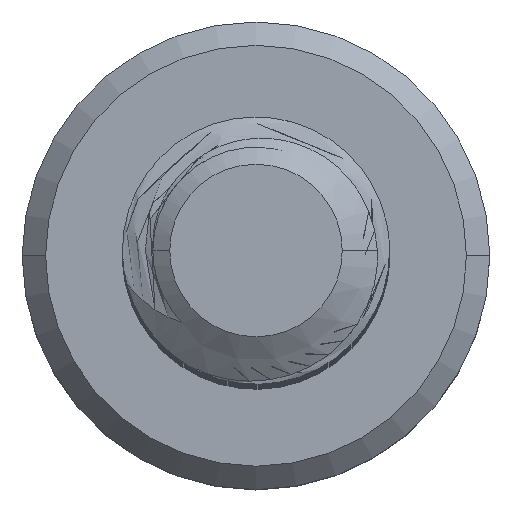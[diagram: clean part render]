
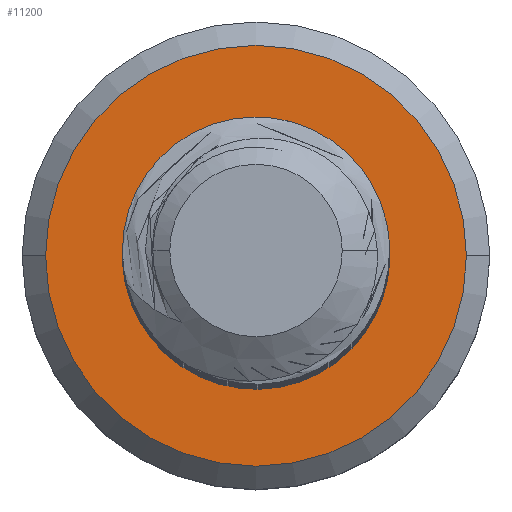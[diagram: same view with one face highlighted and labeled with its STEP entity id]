
A CAD part, top view. The second image highlights one B-rep face of the part: STEP entity #11200.
In plain terms, the highlighted planar face has unit normal (0, 0, 1).
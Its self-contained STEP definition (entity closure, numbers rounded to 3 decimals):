
#76 = CIRCLE ( 'NONE', #15657, 2. ) ;
#80 = CARTESIAN_POINT ( 'NONE',  ( 1.632, -1.052, -45. ) ) ;
#89 = VERTEX_POINT ( 'NONE', #9860 ) ;
#127 = CARTESIAN_POINT ( 'NONE',  ( 0.613, -1.707, -45. ) ) ;
#145 = AXIS2_PLACEMENT_3D ( 'NONE', #4787, #11955, #3460 ) ;
#301 = CIRCLE ( 'NONE', #145, 1.545 ) ;
#1040 = DIRECTION ( 'NONE',  ( -1., 0., 0. ) ) ;
#1287 = CARTESIAN_POINT ( 'NONE',  ( -0.351, 1.743, -45. ) ) ;
#1459 = AXIS2_PLACEMENT_3D ( 'NONE', #14448, #7108, #8368 ) ;
#1683 = EDGE_LOOP ( 'NONE', ( #8965, #11661, #2631, #14417, #15561, #13023 ) ) ;
#2000 = DIRECTION ( 'NONE',  ( 0., 0., -1. ) ) ;
#2385 = CARTESIAN_POINT ( 'NONE',  ( 1.823, -0.755, -45. ) ) ;
#2578 = DIRECTION ( 'NONE',  ( 0., 0., 1. ) ) ;
#2631 = ORIENTED_EDGE ( 'NONE', *, *, #6188, .T. ) ;
#2746 = FACE_BOUND ( 'NONE', #1683, .T. ) ;
#3067 = CARTESIAN_POINT ( 'NONE',  ( 2., 0., -45. ) ) ;
#3070 = CARTESIAN_POINT ( 'NONE',  ( -1.229, -0.986, -45. ) ) ;
#3278 = CARTESIAN_POINT ( 'NONE',  ( 0., 0., -45. ) ) ;
#3460 = DIRECTION ( 'NONE',  ( 1., 0., 0. ) ) ;
#3685 = CARTESIAN_POINT ( 'NONE',  ( 1.582, 1.21, -45. ) ) ;
#3758 = CARTESIAN_POINT ( 'NONE',  ( 0.266, -1.756, -45. ) ) ;
#3759 = EDGE_CURVE ( 'NONE', #4415, #89, #12317, .T. ) ;
#4415 = VERTEX_POINT ( 'NONE', #12277 ) ;
#4729 = CARTESIAN_POINT ( 'NONE',  ( -1.447, 0.676, -45. ) ) ;
#4777 = EDGE_CURVE ( 'NONE', #12446, #6021, #7473, .T. ) ;
#4787 = CARTESIAN_POINT ( 'NONE',  ( 0., 0., -45. ) ) ;
#4822 = CARTESIAN_POINT ( 'NONE',  ( 1.103, -1.512, -45. ) ) ;
#4888 = CARTESIAN_POINT ( 'NONE',  ( 1.69, 1.07, -45. ) ) ;
#5058 = CARTESIAN_POINT ( 'NONE',  ( 0., 0., -45. ) ) ;
#5085 = CARTESIAN_POINT ( 'NONE',  ( -0.259, -1.703, -45. ) ) ;
#5627 = B_SPLINE_CURVE_WITH_KNOTS ( 'NONE', 3,
 ( #9706, #14500, #4729, #7273, #13231, #10753, #5950, #10909, #1287, #9644, #7319, #9756, #14398, #7163, #3685, #4888 ),
 .UNSPECIFIED., .F., .F.,
 ( 4, 2, 2, 2, 2, 2, 2, 4 ),
 ( 0., 0.001, 0.001, 0.002, 0.002, 0.003, 0.004, 0.004 ),
 .UNSPECIFIED. ) ;
#5950 = CARTESIAN_POINT ( 'NONE',  ( -0.823, 1.509, -45. ) ) ;
#5976 = CIRCLE ( 'NONE', #12670, 3.15 ) ;
#6021 = VERTEX_POINT ( 'NONE', #6336 ) ;
#6188 = EDGE_CURVE ( 'NONE', #6021, #10016, #11166, .T. ) ;
#6299 = CARTESIAN_POINT ( 'NONE',  ( -0.425, -1.649, -45. ) ) ;
#6336 = CARTESIAN_POINT ( 'NONE',  ( -1.306, -0.827, -45. ) ) ;
#6722 = FACE_OUTER_BOUND ( 'NONE', #10371, .T. ) ;
#7108 = DIRECTION ( 'NONE',  ( 0., 0., -1. ) ) ;
#7163 = CARTESIAN_POINT ( 'NONE',  ( 1.456, 1.335, -45. ) ) ;
#7200 = CARTESIAN_POINT ( 'NONE',  ( 1.899, -0.597, -45. ) ) ;
#7273 = CARTESIAN_POINT ( 'NONE',  ( -1.298, 0.996, -45. ) ) ;
#7319 = CARTESIAN_POINT ( 'NONE',  ( 0.53, 1.815, -45. ) ) ;
#7356 = CARTESIAN_POINT ( 'NONE',  ( 1.254, -1.414, -45. ) ) ;
#7473 = B_SPLINE_CURVE_WITH_KNOTS ( 'NONE', 3,
 ( #14641, #7200, #2385, #80, #12039, #7356, #4822, #8580, #127, #3758, #13859, #5085, #6299, #7837, #12625, #8675, #3070, #12372 ),
 .UNSPECIFIED., .F., .F.,
 ( 4, 2, 2, 2, 2, 2, 2, 2, 4 ),
 ( 0., 0.001, 0.001, 0.002, 0.002, 0.003, 0.003, 0.004, 0.004 ),
 .UNSPECIFIED. ) ;
#7670 = DIRECTION ( 'NONE',  ( 1., 0., 0. ) ) ;
#7785 = EDGE_CURVE ( 'NONE', #13932, #10827, #5627, .T. ) ;
#7837 = CARTESIAN_POINT ( 'NONE',  ( -0.74, -1.487, -45. ) ) ;
#8196 = EDGE_CURVE ( 'NONE', #11832, #10827, #76, .T. ) ;
#8207 = CIRCLE ( 'NONE', #8791, 2. ) ;
#8257 = CARTESIAN_POINT ( 'NONE',  ( -1.545, 0., -45. ) ) ;
#8290 = CARTESIAN_POINT ( 'NONE',  ( 0., 0., -45. ) ) ;
#8316 = ORIENTED_EDGE ( 'NONE', *, *, #10724, .T. ) ;
#8368 = DIRECTION ( 'NONE',  ( -1., 0., 0. ) ) ;
#8580 = CARTESIAN_POINT ( 'NONE',  ( 0.785, -1.657, -45. ) ) ;
#8675 = CARTESIAN_POINT ( 'NONE',  ( -1.128, -1.13, -45. ) ) ;
#8791 = AXIS2_PLACEMENT_3D ( 'NONE', #12573, #13852, #7670 ) ;
#8965 = ORIENTED_EDGE ( 'NONE', *, *, #12763, .F. ) ;
#9419 = DIRECTION ( 'NONE',  ( 0., 0., 1. ) ) ;
#9644 = CARTESIAN_POINT ( 'NONE',  ( 0.167, 1.849, -45. ) ) ;
#9706 = CARTESIAN_POINT ( 'NONE',  ( -1.509, 0.331, -45. ) ) ;
#9756 = CARTESIAN_POINT ( 'NONE',  ( 1.02, 1.629, -45. ) ) ;
#9860 = CARTESIAN_POINT ( 'NONE',  ( -3.15, 0., -45. ) ) ;
#10016 = VERTEX_POINT ( 'NONE', #8257 ) ;
#10371 = EDGE_LOOP ( 'NONE', ( #8316, #14897 ) ) ;
#10484 = PLANE ( 'NONE',  #1459 ) ;
#10686 = DIRECTION ( 'NONE',  ( 1., 0., 0. ) ) ;
#10724 = EDGE_CURVE ( 'NONE', #89, #4415, #5976, .T. ) ;
#10753 = CARTESIAN_POINT ( 'NONE',  ( -0.959, 1.401, -45. ) ) ;
#10827 = VERTEX_POINT ( 'NONE', #15355 ) ;
#10909 = CARTESIAN_POINT ( 'NONE',  ( -0.514, 1.682, -45. ) ) ;
#11031 = DIRECTION ( 'NONE',  ( -1., 0., 0. ) ) ;
#11163 = AXIS2_PLACEMENT_3D ( 'NONE', #15308, #2000, #14990 ) ;
#11166 = CIRCLE ( 'NONE', #11163, 1.545 ) ;
#11187 = EDGE_CURVE ( 'NONE', #10016, #13932, #301, .T. ) ;
#11200 = ADVANCED_FACE ( 'NONE', ( #6722, #2746 ), #10484, .F. ) ;
#11661 = ORIENTED_EDGE ( 'NONE', *, *, #4777, .T. ) ;
#11832 = VERTEX_POINT ( 'NONE', #3067 ) ;
#11838 = CARTESIAN_POINT ( 'NONE',  ( 1.954, -0.429, -45. ) ) ;
#11955 = DIRECTION ( 'NONE',  ( 0., 0., -1. ) ) ;
#12039 = CARTESIAN_POINT ( 'NONE',  ( 1.517, -1.186, -45. ) ) ;
#12277 = CARTESIAN_POINT ( 'NONE',  ( 3.15, 0., -45. ) ) ;
#12317 = CIRCLE ( 'NONE', #14513, 3.15 ) ;
#12372 = CARTESIAN_POINT ( 'NONE',  ( -1.306, -0.827, -45. ) ) ;
#12446 = VERTEX_POINT ( 'NONE', #11838 ) ;
#12573 = CARTESIAN_POINT ( 'NONE',  ( 0., 0., -45. ) ) ;
#12625 = CARTESIAN_POINT ( 'NONE',  ( -0.881, -1.384, -45. ) ) ;
#12634 = CARTESIAN_POINT ( 'NONE',  ( -1.509, 0.331, -45. ) ) ;
#12670 = AXIS2_PLACEMENT_3D ( 'NONE', #3278, #14166, #1040 ) ;
#12763 = EDGE_CURVE ( 'NONE', #12446, #11832, #8207, .T. ) ;
#13023 = ORIENTED_EDGE ( 'NONE', *, *, #8196, .F. ) ;
#13231 = CARTESIAN_POINT ( 'NONE',  ( -1.199, 1.142, -45. ) ) ;
#13852 = DIRECTION ( 'NONE',  ( 0., 0., 1. ) ) ;
#13859 = CARTESIAN_POINT ( 'NONE',  ( 0.088, -1.756, -45. ) ) ;
#13932 = VERTEX_POINT ( 'NONE', #12634 ) ;
#14166 = DIRECTION ( 'NONE',  ( 0., 0., 1. ) ) ;
#14398 = CARTESIAN_POINT ( 'NONE',  ( 1.176, 1.543, -45. ) ) ;
#14417 = ORIENTED_EDGE ( 'NONE', *, *, #11187, .T. ) ;
#14448 = CARTESIAN_POINT ( 'NONE',  ( 0., 0., -45. ) ) ;
#14500 = CARTESIAN_POINT ( 'NONE',  ( -1.494, 0.507, -45. ) ) ;
#14513 = AXIS2_PLACEMENT_3D ( 'NONE', #5058, #2578, #11031 ) ;
#14641 = CARTESIAN_POINT ( 'NONE',  ( 1.954, -0.429, -45. ) ) ;
#14897 = ORIENTED_EDGE ( 'NONE', *, *, #3759, .T. ) ;
#14990 = DIRECTION ( 'NONE',  ( 1., 0., 0. ) ) ;
#15308 = CARTESIAN_POINT ( 'NONE',  ( 0., 0., -45. ) ) ;
#15355 = CARTESIAN_POINT ( 'NONE',  ( 1.69, 1.07, -45. ) ) ;
#15561 = ORIENTED_EDGE ( 'NONE', *, *, #7785, .T. ) ;
#15657 = AXIS2_PLACEMENT_3D ( 'NONE', #8290, #9419, #10686 ) ;
